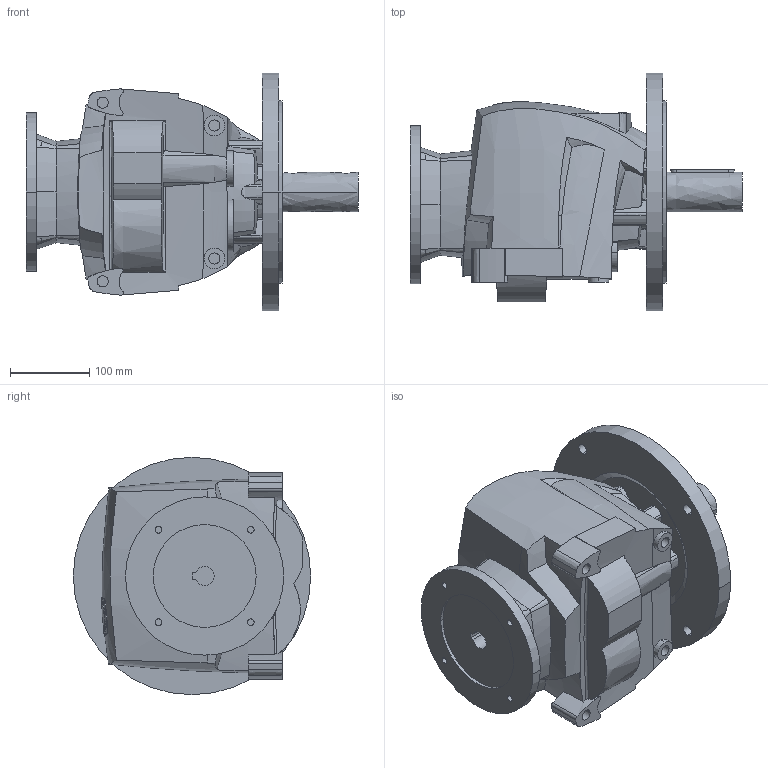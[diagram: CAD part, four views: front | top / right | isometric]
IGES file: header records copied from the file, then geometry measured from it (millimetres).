
Start section:  PTC IGES file: r40_300_pam90_d2.igs
Global section: file name: r40_300_pam90_d2.igs; native system: Pro/ENGINEER by Parametric Technology Corporation; preprocessor: 2008230; author: Luca; organization: Unknown; date: 20131127.143329; units: millimetre
Bounding box: 419.5 x 300 x 300 mm (x, y, z)
Volume: 12441795 mm3; surface area: 531147.9 mm2
Topology: 1 solids, 8 shells, 454 faces, 1207 edges, 806 vertices
Faces by surface type: bspline 219, revolution 198, extrusion 37
